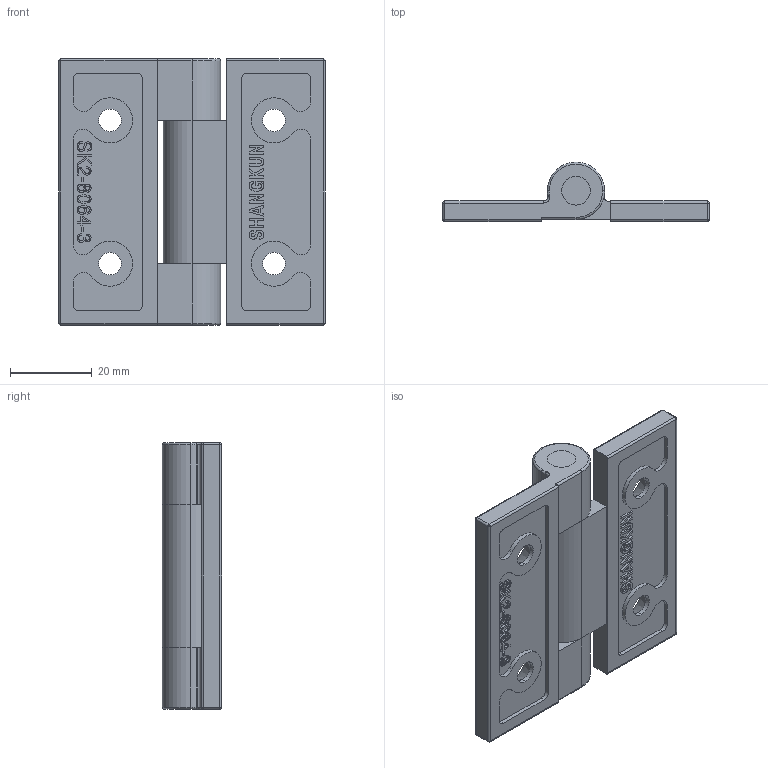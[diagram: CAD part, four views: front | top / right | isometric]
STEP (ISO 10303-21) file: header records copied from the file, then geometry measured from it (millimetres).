
FILE_DESCRIPTION (( 'STEP AP214' ), '1' );
FILE_NAME ('SK2-8064-3.STEP', '2020-03-24T02:00:09', ( 'admin' ), ( 'Microsoft' ), 'SwSTEP 2.0', 'SolidWorks 2018', '' );
FILE_SCHEMA (( 'AUTOMOTIVE_DESIGN' ));
Length unit declared in the file: millimetre
Products named in the file (4): 2-8064-3-F1; SK2-8064-3; 2-8064-3-F3; 2-8064-3-F2
Assembly tree (3 placements, depth 2):
  SK2-8064-3
    2-8064-3-F1
    2-8064-3-F2
    2-8064-3-F3
Bounding box: 65 x 14.5 x 65 mm (x, y, z)
Volume: 24301.5 mm3; surface area: 14934.6 mm2
Topology: 3 solids, 3 shells, 377 faces, 1001 edges, 648 vertices
Faces by surface type: plane 182, bspline 102, cylinder 69, cone 8, sphere 8, torus 8
Entity records: 17349 total; most frequent: CARTESIAN_POINT 8414, ORIENTED_EDGE 1986, DIRECTION 1511, EDGE_CURVE 993, VERTEX_POINT 648, VECTOR 629, LINE 629, AXIS2_PLACEMENT_3D 441
